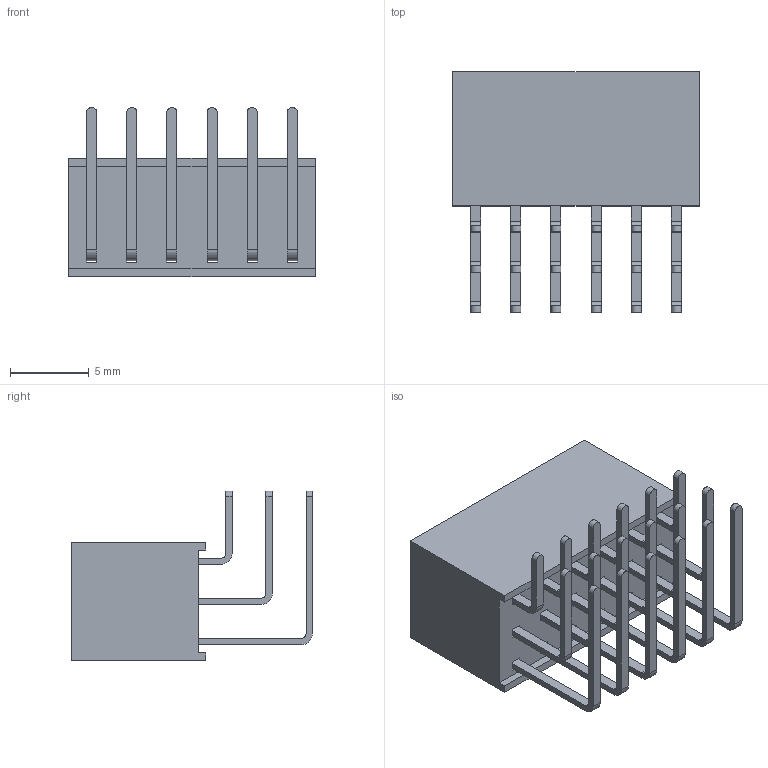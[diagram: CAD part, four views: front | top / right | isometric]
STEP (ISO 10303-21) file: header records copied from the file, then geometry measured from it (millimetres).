
FILE_DESCRIPTION (( 'STEP AP214' ), '1' );
FILE_NAME ('PM254-3-6-W-8.5-XX(L15.24) (2.54三排 排母 正弯 塑高8.5-HCTL).STEP', '2024-12-05T08:33:46', ( '' ), ( '' ), 'SwSTEP 2.0', 'SolidWorks 2022', '' );
FILE_SCHEMA (( 'AUTOMOTIVE_DESIGN' ));
Length unit declared in the file: millimetre
Products named in the file (1): PM254-3-6-W-8.5-XX(L15.24) (2.54三排 排母 正弯 塑高8.5-HCTL)
Bounding box: 15.64 x 15.24 x 10.72 mm (x, y, z)
Volume: 951.2 mm3; surface area: 1449.9 mm2
Topology: 1 solids, 1 shells, 334 faces, 960 edges, 592 vertices
Faces by surface type: plane 280, cylinder 54
Entity records: 10798 total; most frequent: ORIENTED_EDGE 1920, CARTESIAN_POINT 1887, DIRECTION 1738, EDGE_CURVE 960, LINE 852, VECTOR 852, VERTEX_POINT 592, AXIS2_PLACEMENT_3D 443
